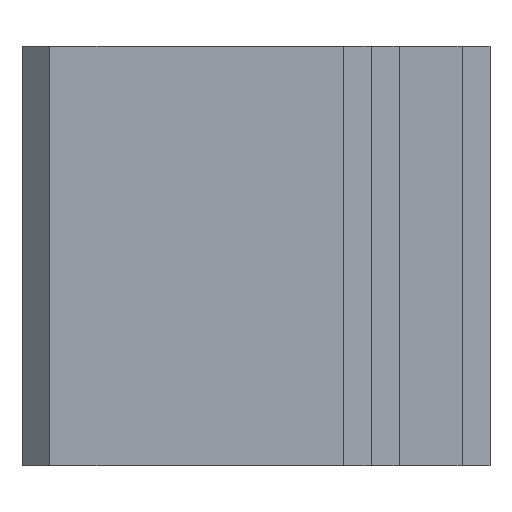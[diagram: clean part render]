
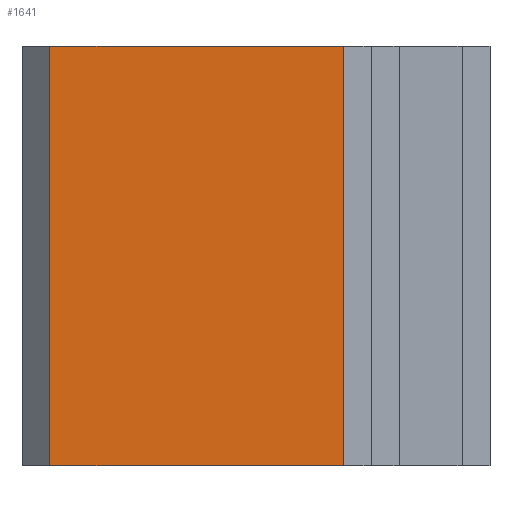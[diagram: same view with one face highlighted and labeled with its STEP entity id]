
A CAD part, left-side view. The second image highlights one B-rep face of the part: STEP entity #1641.
In plain terms, the highlighted planar face has unit normal (-1, 0, 0).
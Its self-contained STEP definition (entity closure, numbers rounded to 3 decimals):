
#67 = DIRECTION ( 'NONE',  ( 0., -1., 0. ) ) ;
#75 = FACE_OUTER_BOUND ( 'NONE', #858, .T. ) ;
#105 = CARTESIAN_POINT ( 'NONE',  ( -20., 6.25, 7.5 ) ) ;
#179 = VECTOR ( 'NONE', #837, 1000. ) ;
#202 = CARTESIAN_POINT ( 'NONE',  ( -20., -5.25, -7.5 ) ) ;
#240 = VECTOR ( 'NONE', #67, 1000. ) ;
#375 = EDGE_CURVE ( 'NONE', #949, #1302, #1351, .T. ) ;
#411 = ORIENTED_EDGE ( 'NONE', *, *, #1267, .F. ) ;
#419 = CARTESIAN_POINT ( 'NONE',  ( -20., 5.25, 7.5 ) ) ;
#464 = ORIENTED_EDGE ( 'NONE', *, *, #1570, .T. ) ;
#466 = ORIENTED_EDGE ( 'NONE', *, *, #375, .T. ) ;
#481 = LINE ( 'NONE', #105, #735 ) ;
#496 = DIRECTION ( 'NONE',  ( 0., 1., 0. ) ) ;
#590 = VERTEX_POINT ( 'NONE', #857 ) ;
#735 = VECTOR ( 'NONE', #1388, 1000. ) ;
#784 = DIRECTION ( 'NONE',  ( 0., 0., -1. ) ) ;
#797 = CARTESIAN_POINT ( 'NONE',  ( -20., -5.25, 7.5 ) ) ;
#799 = ORIENTED_EDGE ( 'NONE', *, *, #891, .T. ) ;
#825 = CARTESIAN_POINT ( 'NONE',  ( -20., 5.25, -7.5 ) ) ;
#837 = DIRECTION ( 'NONE',  ( 0., 0., 1. ) ) ;
#857 = CARTESIAN_POINT ( 'NONE',  ( -20., -5.25, 7.5 ) ) ;
#858 = EDGE_LOOP ( 'NONE', ( #464, #799, #411, #466 ) ) ;
#891 = EDGE_CURVE ( 'NONE', #1142, #590, #1116, .T. ) ;
#949 = VERTEX_POINT ( 'NONE', #419 ) ;
#1116 = LINE ( 'NONE', #797, #179 ) ;
#1121 = AXIS2_PLACEMENT_3D ( 'NONE', #1327, #1468, #496 ) ;
#1142 = VERTEX_POINT ( 'NONE', #202 ) ;
#1210 = VECTOR ( 'NONE', #784, 1000. ) ;
#1212 = LINE ( 'NONE', #1741, #240 ) ;
#1267 = EDGE_CURVE ( 'NONE', #949, #590, #481, .T. ) ;
#1302 = VERTEX_POINT ( 'NONE', #825 ) ;
#1327 = CARTESIAN_POINT ( 'NONE',  ( -20., 6.25, 7.5 ) ) ;
#1351 = LINE ( 'NONE', #1485, #1210 ) ;
#1388 = DIRECTION ( 'NONE',  ( 0., -1., 0. ) ) ;
#1468 = DIRECTION ( 'NONE',  ( 1., 0., 0. ) ) ;
#1485 = CARTESIAN_POINT ( 'NONE',  ( -20., 5.25, 7.5 ) ) ;
#1570 = EDGE_CURVE ( 'NONE', #1302, #1142, #1212, .T. ) ;
#1614 = PLANE ( 'NONE',  #1121 ) ;
#1641 = ADVANCED_FACE ( 'NONE', ( #75 ), #1614, .F. ) ;
#1741 = CARTESIAN_POINT ( 'NONE',  ( -20., 6.25, -7.5 ) ) ;
